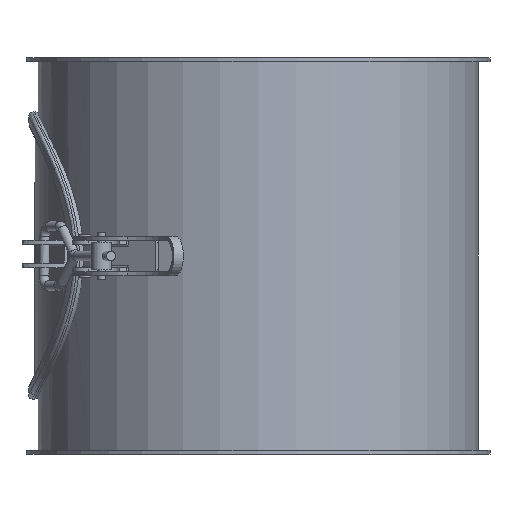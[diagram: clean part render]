
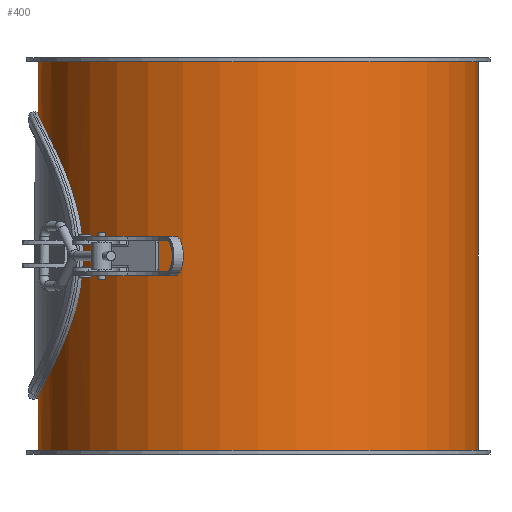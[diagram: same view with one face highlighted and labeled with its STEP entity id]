
A CAD part, front view. The second image highlights one B-rep face of the part: STEP entity #400.
In plain terms, the highlighted cylindrical face has radius 111 mm (diameter 222 mm), a full revolution.
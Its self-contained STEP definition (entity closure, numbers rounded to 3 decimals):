
#143=CARTESIAN_POINT('',(111.0,0.,198.0));
#144=VERTEX_POINT('',#143);
#145=CARTESIAN_POINT('',(0.0,0.0,198.0));
#146=DIRECTION('',(0.0,0.0,-1.0));
#147=DIRECTION('',(-1.0,0.0,0.0));
#148=AXIS2_PLACEMENT_3D('',#145,#146,#147);
#149=CIRCLE('',#148,111.);
#150=EDGE_CURVE('',#144,#144,#149,.T.);
#191=CARTESIAN_POINT('',(-111.0,0.,2.0));
#192=VERTEX_POINT('',#191);
#193=CARTESIAN_POINT('',(0.0,0.0,2.0));
#194=DIRECTION('',(0.0,0.0,1.0));
#195=DIRECTION('',(-1.0,0.0,0.0));
#196=AXIS2_PLACEMENT_3D('',#193,#194,#195);
#197=CIRCLE('',#196,111.);
#198=EDGE_CURVE('',#192,#192,#197,.T.);
#281=CARTESIAN_POINT('',(-94.946,-57.5,100.0));
#282=VERTEX_POINT('',#281);
#283=CARTESIAN_POINT('',(-94.946,-57.5,100.0));
#284=CARTESIAN_POINT('',(-94.946,-57.5,96.304));
#285=CARTESIAN_POINT('',(-95.168,-57.138,92.512));
#286=CARTESIAN_POINT('',(-96.048,-55.646,85.023));
#287=CARTESIAN_POINT('',(-96.704,-54.517,81.325));
#288=CARTESIAN_POINT('',(-98.31,-51.565,74.272));
#289=CARTESIAN_POINT('',(-99.259,-49.739,70.909));
#290=CARTESIAN_POINT('',(-101.252,-45.545,64.703));
#291=CARTESIAN_POINT('',(-102.294,-43.176,61.859));
#292=CARTESIAN_POINT('',(-104.273,-38.149,56.832));
#293=CARTESIAN_POINT('',(-105.284,-35.31,54.464));
#294=CARTESIAN_POINT('',(-107.166,-29.102,50.267));
#295=CARTESIAN_POINT('',(-108.036,-25.733,48.437));
#296=CARTESIAN_POINT('',(-109.478,-18.668,45.48));
#297=CARTESIAN_POINT('',(-110.051,-14.964,44.35));
#298=CARTESIAN_POINT('',(-110.812,-7.472,42.86));
#299=CARTESIAN_POINT('',(-111.,-3.684,42.5));
#300=CARTESIAN_POINT('',(-111.,3.684,42.5));
#301=CARTESIAN_POINT('',(-110.812,7.472,42.86));
#302=CARTESIAN_POINT('',(-110.051,14.964,44.35));
#303=CARTESIAN_POINT('',(-109.478,18.668,45.48));
#304=CARTESIAN_POINT('',(-108.036,25.733,48.437));
#305=CARTESIAN_POINT('',(-107.166,29.102,50.267));
#306=CARTESIAN_POINT('',(-105.284,35.31,54.464));
#307=CARTESIAN_POINT('',(-104.273,38.149,56.832));
#308=CARTESIAN_POINT('',(-102.294,43.176,61.859));
#309=CARTESIAN_POINT('',(-101.252,45.545,64.703));
#310=CARTESIAN_POINT('',(-99.259,49.739,70.909));
#311=CARTESIAN_POINT('',(-98.31,51.565,74.272));
#312=CARTESIAN_POINT('',(-96.704,54.517,81.325));
#313=CARTESIAN_POINT('',(-96.048,55.646,85.023));
#314=CARTESIAN_POINT('',(-95.168,57.138,92.512));
#315=CARTESIAN_POINT('',(-94.946,57.5,96.304));
#316=CARTESIAN_POINT('',(-94.946,57.5,103.696));
#317=CARTESIAN_POINT('',(-95.168,57.138,107.488));
#318=CARTESIAN_POINT('',(-96.048,55.646,114.977));
#319=CARTESIAN_POINT('',(-96.704,54.517,118.675));
#320=CARTESIAN_POINT('',(-98.31,51.565,125.728));
#321=CARTESIAN_POINT('',(-99.259,49.739,129.091));
#322=CARTESIAN_POINT('',(-101.252,45.545,135.297));
#323=CARTESIAN_POINT('',(-102.294,43.176,138.141));
#324=CARTESIAN_POINT('',(-104.273,38.149,143.168));
#325=CARTESIAN_POINT('',(-105.284,35.31,145.536));
#326=CARTESIAN_POINT('',(-107.166,29.102,149.733));
#327=CARTESIAN_POINT('',(-108.036,25.733,151.563));
#328=CARTESIAN_POINT('',(-109.478,18.668,154.52));
#329=CARTESIAN_POINT('',(-110.051,14.964,155.65));
#330=CARTESIAN_POINT('',(-110.812,7.472,157.14));
#331=CARTESIAN_POINT('',(-111.,3.684,157.5));
#332=CARTESIAN_POINT('',(-111.,-3.684,157.5));
#333=CARTESIAN_POINT('',(-110.812,-7.472,157.14));
#334=CARTESIAN_POINT('',(-110.051,-14.964,155.65));
#335=CARTESIAN_POINT('',(-109.478,-18.668,154.52));
#336=CARTESIAN_POINT('',(-108.036,-25.733,151.563));
#337=CARTESIAN_POINT('',(-107.166,-29.102,149.733));
#338=CARTESIAN_POINT('',(-105.284,-35.31,145.536));
#339=CARTESIAN_POINT('',(-104.273,-38.149,143.168));
#340=CARTESIAN_POINT('',(-102.294,-43.176,138.141));
#341=CARTESIAN_POINT('',(-101.252,-45.545,135.297));
#342=CARTESIAN_POINT('',(-99.259,-49.739,129.091));
#343=CARTESIAN_POINT('',(-98.31,-51.565,125.728));
#344=CARTESIAN_POINT('',(-96.704,-54.517,118.675));
#345=CARTESIAN_POINT('',(-96.048,-55.646,114.977));
#346=CARTESIAN_POINT('',(-95.168,-57.138,107.488));
#347=CARTESIAN_POINT('',(-94.946,-57.5,103.696));
#348=CARTESIAN_POINT('',(-94.946,-57.5,100.0));
#349=B_SPLINE_CURVE_WITH_KNOTS('',3,(#283,#284,#285,#286,#287,#288,#289,#290,#291,#292,#293,#294,#295,#296,#297,#298,#299,#300,#301,#302,#303,#304,#305,#306,#307,#308,#309,#310,#311,#312,#313,#314,#315,#316,#317,#318,#319,#320,#321,#322,#323,#324,#325,#326,#327,#328,#329,#330,#331,#332,#333,#334,#335,#336,#337,#338,#339,#340,#341,#342,#343,#344,#345,#346,#347,#348),.UNSPECIFIED.,.T.,.U.,(4,2,2,2,2,2,2,2,2,2,2,2,2,2,2,2,2,2,2,2,2,2,2,2,2,2,2,2,2,2,2,2,4),(0.0,1.109,2.218,3.326,4.435,5.54,6.646,7.751,8.856,9.961,11.067,12.172,13.277,14.386,15.495,16.604,17.712,18.821,19.93,21.039,22.148,23.253,24.358,25.463,26.568,27.674,28.779,29.884,30.989,32.098,33.207,34.316,35.425),.UNSPECIFIED.);
#350=EDGE_CURVE('',#282,#282,#349,.T.);
#386=CARTESIAN_POINT('',(0.0,0.0,0.0));
#387=DIRECTION('',(0.0,0.0,1.0));
#388=DIRECTION('',(-1.0,0.0,0.0));
#389=AXIS2_PLACEMENT_3D('',#386,#387,#388);
#390=CYLINDRICAL_SURFACE('',#389,111.);
#391=ORIENTED_EDGE('',*,*,#150,.T.);
#392=EDGE_LOOP('',(#391));
#393=FACE_OUTER_BOUND('',#392,.T.);
#394=ORIENTED_EDGE('',*,*,#198,.T.);
#395=EDGE_LOOP('',(#394));
#396=FACE_BOUND('',#395,.T.);
#397=ORIENTED_EDGE('',*,*,#350,.T.);
#398=EDGE_LOOP('',(#397));
#399=FACE_BOUND('',#398,.T.);
#400=ADVANCED_FACE('',(#393,#396,#399),#390,.T.);
